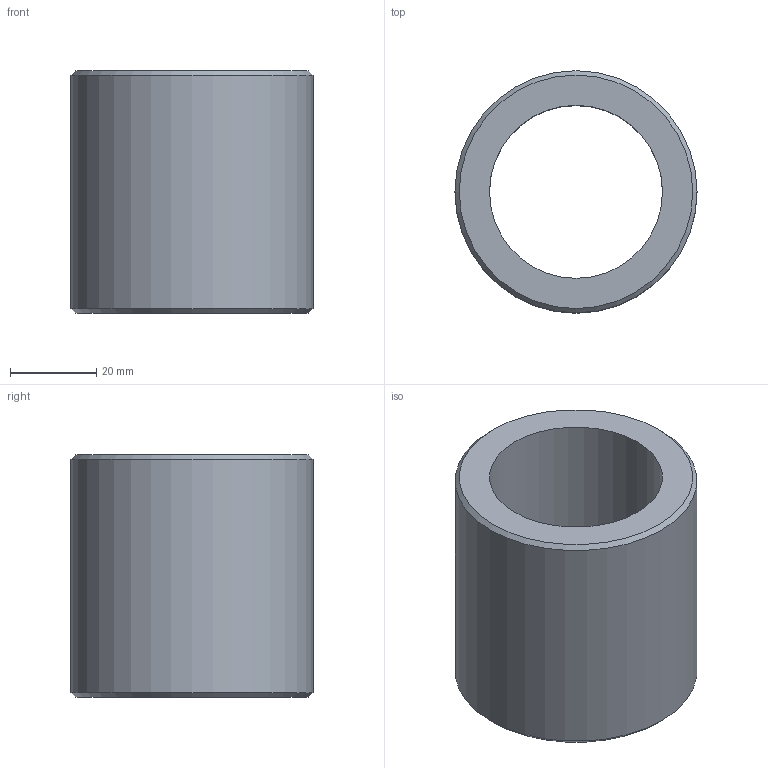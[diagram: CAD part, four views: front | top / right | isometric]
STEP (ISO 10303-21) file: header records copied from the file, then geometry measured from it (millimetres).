
FILE_DESCRIPTION(('STEP AP203'),'1');
FILE_NAME('//192.168.1.1/share/s-4 技術開発/s-4-4_CAD/s-4-4-3_見直し済み/007 修正済み/DB/DB_TOP/DB-40.step','2022-02-08T07:27:32',(' '),(' '),'Spatial InterOp 3D',' ',' ');
FILE_SCHEMA(('CONFIG_CONTROL_DESIGN'));
Length unit declared in the file: millimetre
Products named in the file (1): 1
Bounding box: 56 x 56 x 56 mm (x, y, z)
Volume: 67383 mm3; surface area: 19093.2 mm2
Topology: 1 solids, 1 shells, 6 faces, 10 edges, 6 vertices
Faces by surface type: plane 2, cylinder 2, cone 2
Full cylindrical faces by diameter (mm): 40 x1, 56 x1
Entity records: 172 total; most frequent: DIRECTION 26, CARTESIAN_POINT 19, AXIS2_PLACEMENT_3D 13, EDGE_LOOP 12, ORIENTED_EDGE 12, FACE_OUTER_BOUND 8, ADVANCED_FACE 6, EDGE_CURVE 6
